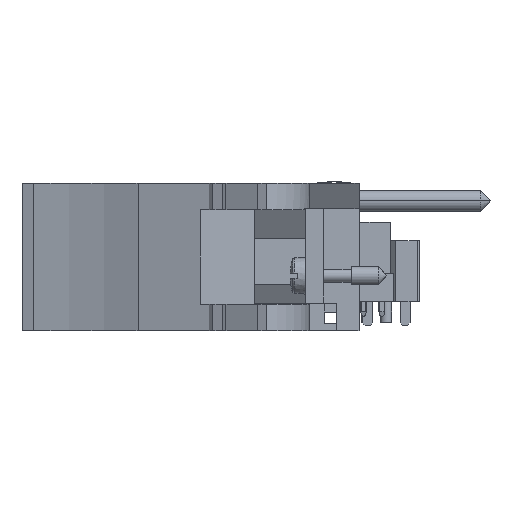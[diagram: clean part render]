
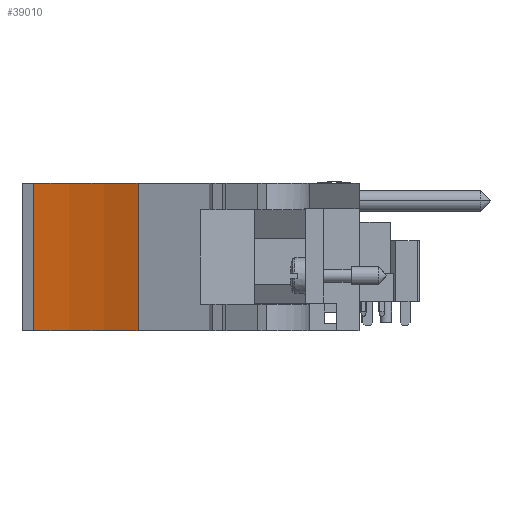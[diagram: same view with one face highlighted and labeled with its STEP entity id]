
A CAD part, front view. The second image highlights one B-rep face of the part: STEP entity #39010.
In plain terms, the highlighted cylindrical face has radius 51.46 mm (diameter 102.919 mm), a partial arc.
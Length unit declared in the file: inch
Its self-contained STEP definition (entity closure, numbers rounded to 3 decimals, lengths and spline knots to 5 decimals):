
#29985=CARTESIAN_POINT('',(-2.11666,-2.23324,0.695));
#29986=DIRECTION('',(0.,0.,1.));
#29987=DIRECTION('',(0.435,0.901,0.));
#29988=AXIS2_PLACEMENT_3D('',#29985,#29986,#29987);
#30330=CARTESIAN_POINT('',(-2.11666,-2.23324,-0.093));
#30331=DIRECTION('',(0.,0.,1.));
#30332=DIRECTION('',(0.435,0.901,0.));
#30333=AXIS2_PLACEMENT_3D('',#30330,#30331,#30332);
#30548=DIRECTION('',(0.,0.,1.));
#30549=VECTOR('',#30548,0.788);
#30550=CARTESIAN_POINT('',(-1.79394,-0.23314,-0.093));
#30551=LINE('',#30550,#30549);
#30556=DIRECTION('',(0.,0.,1.));
#30557=VECTOR('',#30556,0.788);
#30558=CARTESIAN_POINT('',(-1.23592,-0.40873,-0.093));
#30559=LINE('',#30558,#30557);
#32665=CARTESIAN_POINT('',(-1.23592,-0.40873,-0.093));
#32666=CARTESIAN_POINT('',(-1.79394,-0.23314,-0.093));
#32667=VERTEX_POINT('',#32665);
#32668=VERTEX_POINT('',#32666);
#32669=CARTESIAN_POINT('',(-1.23592,-0.40873,0.695));
#32670=CARTESIAN_POINT('',(-1.79394,-0.23314,0.695));
#32671=VERTEX_POINT('',#32669);
#32672=VERTEX_POINT('',#32670);
#38998=CARTESIAN_POINT('',(-2.11666,-2.23324,0.695));
#38999=DIRECTION('',(0.,0.,1.));
#39000=DIRECTION('',(0.,1.,0.));
#39001=AXIS2_PLACEMENT_3D('',#38998,#38999,#39000);
#39002=CYLINDRICAL_SURFACE('',#39001,2.02597);
#39003=ORIENTED_EDGE('',*,*,#38716,.T.);
#39004=ORIENTED_EDGE('',*,*,#38990,.T.);
#39005=ORIENTED_EDGE('',*,*,#38265,.F.);
#39007=ORIENTED_EDGE('',*,*,#39006,.F.);
#39008=EDGE_LOOP('',(#39003,#39004,#39005,#39007));
#39009=FACE_OUTER_BOUND('',#39008,.F.);
#39010=ADVANCED_FACE('',(#39009),#39002,.F.);
#29989=CIRCLE('',#29988,2.02597);
#30334=CIRCLE('',#30333,2.02597);
#38265=EDGE_CURVE('',#32671,#32672,#29989,.T.);
#38716=EDGE_CURVE('',#32667,#32668,#30334,.T.);
#38990=EDGE_CURVE('',#32668,#32672,#30551,.T.);
#39006=EDGE_CURVE('',#32667,#32671,#30559,.T.);
